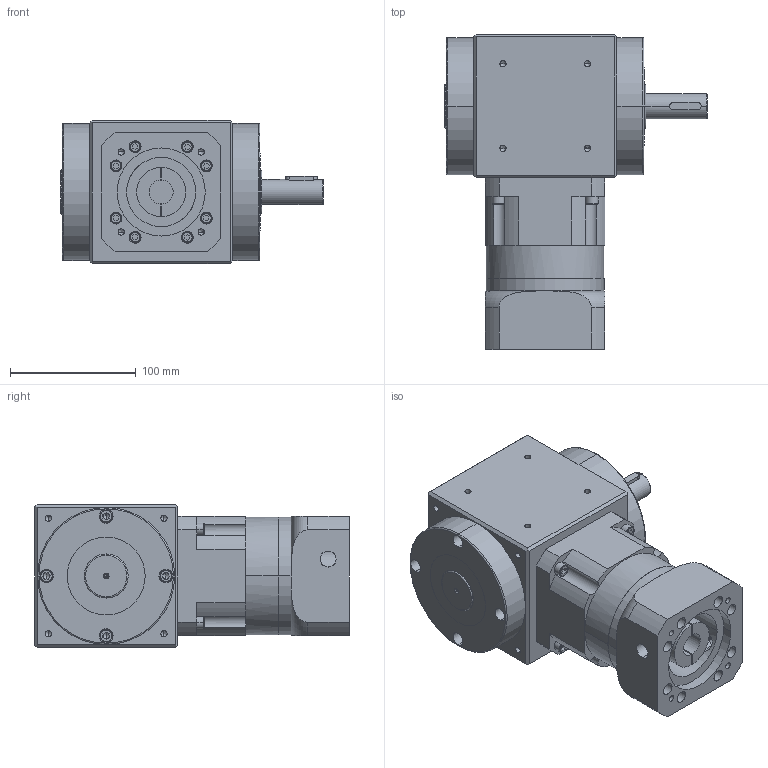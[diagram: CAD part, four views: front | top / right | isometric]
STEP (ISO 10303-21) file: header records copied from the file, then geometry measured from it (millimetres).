
FILE_DESCRIPTION (( 'STEP AP214' ), '1' );
FILE_NAME ('RAH090-L1-XX-S-19-70-90-M6_2019.STEP', '2019-03-22T10:42:11', ( 'Y' ), ( 'NCU' ), 'SwSTEP 2.0', 'SolidWorks 2016', '' );
FILE_SCHEMA (( 'AUTOMOTIVE_DESIGN' ));
Length unit declared in the file: millimetre
Products named in the file (1): RAH090-L1-XX-S-19-70-90-M6_2019
Bounding box: 209 x 250.5 x 114 mm (x, y, z)
Volume: 2879250 mm3; surface area: 205000.2 mm2
Topology: 2 solids, 19 shells, 666 faces, 1539 edges, 938 vertices
Faces by surface type: plane 309, cylinder 229, cone 92, torus 36
Entity records: 20204 total; most frequent: CARTESIAN_POINT 3824, DIRECTION 3394, ORIENTED_EDGE 2938, EDGE_CURVE 1469, AXIS2_PLACEMENT_3D 1292, VERTEX_POINT 938, VECTOR 810, LINE 810
